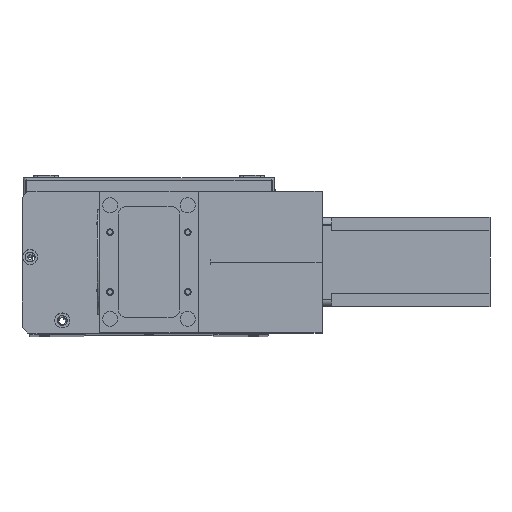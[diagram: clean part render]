
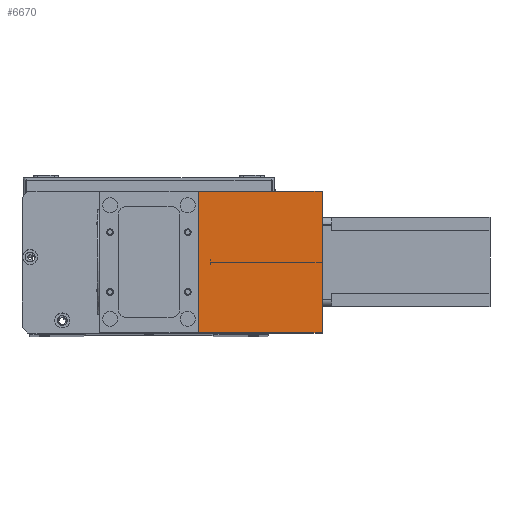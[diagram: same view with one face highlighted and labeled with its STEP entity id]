
A CAD part, top view. The second image highlights one B-rep face of the part: STEP entity #6670.
In plain terms, the highlighted planar face has unit normal (0, 0, 1) as drawn and (1, 0, 0) by its records, which use the part's own axes.
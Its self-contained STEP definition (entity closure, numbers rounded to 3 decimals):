
#204 = CARTESIAN_POINT ( 'NONE',  ( 82., 95., 83. ) ) ;
#792 = CARTESIAN_POINT ( 'NONE',  ( 82., 95., 83. ) ) ;
#2536 = ORIENTED_EDGE ( 'NONE', *, *, #10642, .T. ) ;
#2643 = LINE ( 'NONE', #22211, #6522 ) ;
#3306 = VERTEX_POINT ( 'NONE', #20510 ) ;
#4339 = CARTESIAN_POINT ( 'NONE',  ( 82., 0., 0. ) ) ;
#4671 = DIRECTION ( 'NONE',  ( 0., 1., 0. ) ) ;
#4757 = LINE ( 'NONE', #4339, #15766 ) ;
#5665 = ORIENTED_EDGE ( 'NONE', *, *, #12481, .F. ) ;
#5796 = AXIS2_PLACEMENT_3D ( 'NONE', #16749, #16476, #16457 ) ;
#6522 = VECTOR ( 'NONE', #21882, 1000. ) ;
#6670 = ADVANCED_FACE ( 'NONE', ( #12515 ), #17226, .F. ) ;
#9261 = CARTESIAN_POINT ( 'NONE',  ( 82., 0., 83. ) ) ;
#9543 = EDGE_CURVE ( 'NONE', #12369, #3306, #2643, .T. ) ;
#10642 = EDGE_CURVE ( 'NONE', #3306, #13671, #4757, .T. ) ;
#11175 = EDGE_CURVE ( 'NONE', #12023, #13671, #24398, .T. ) ;
#11796 = ORIENTED_EDGE ( 'NONE', *, *, #11175, .F. ) ;
#12023 = VERTEX_POINT ( 'NONE', #792 ) ;
#12369 = VERTEX_POINT ( 'NONE', #9261 ) ;
#12481 = EDGE_CURVE ( 'NONE', #12369, #12023, #16346, .T. ) ;
#12515 = FACE_OUTER_BOUND ( 'NONE', #18356, .T. ) ;
#13671 = VERTEX_POINT ( 'NONE', #17167 ) ;
#15766 = VECTOR ( 'NONE', #4671, 1000. ) ;
#16346 = LINE ( 'NONE', #25840, #20709 ) ;
#16457 = DIRECTION ( 'NONE',  ( 0., 0., 1. ) ) ;
#16476 = DIRECTION ( 'NONE',  ( -1., 0., 0. ) ) ;
#16749 = CARTESIAN_POINT ( 'NONE',  ( 82., 0., 83. ) ) ;
#17167 = CARTESIAN_POINT ( 'NONE',  ( 82., 95., 0. ) ) ;
#17226 = PLANE ( 'NONE',  #5796 ) ;
#18356 = EDGE_LOOP ( 'NONE', ( #2536, #11796, #5665, #24005 ) ) ;
#18763 = VECTOR ( 'NONE', #28033, 1000. ) ;
#20510 = CARTESIAN_POINT ( 'NONE',  ( 82., 0., 0. ) ) ;
#20709 = VECTOR ( 'NONE', #25794, 1000. ) ;
#21882 = DIRECTION ( 'NONE',  ( 0., 0., -1. ) ) ;
#22211 = CARTESIAN_POINT ( 'NONE',  ( 82., 0., 83. ) ) ;
#24005 = ORIENTED_EDGE ( 'NONE', *, *, #9543, .T. ) ;
#24398 = LINE ( 'NONE', #204, #18763 ) ;
#25794 = DIRECTION ( 'NONE',  ( 0., 1., 0. ) ) ;
#25840 = CARTESIAN_POINT ( 'NONE',  ( 82., 0., 83. ) ) ;
#28033 = DIRECTION ( 'NONE',  ( 0., 0., -1. ) ) ;
